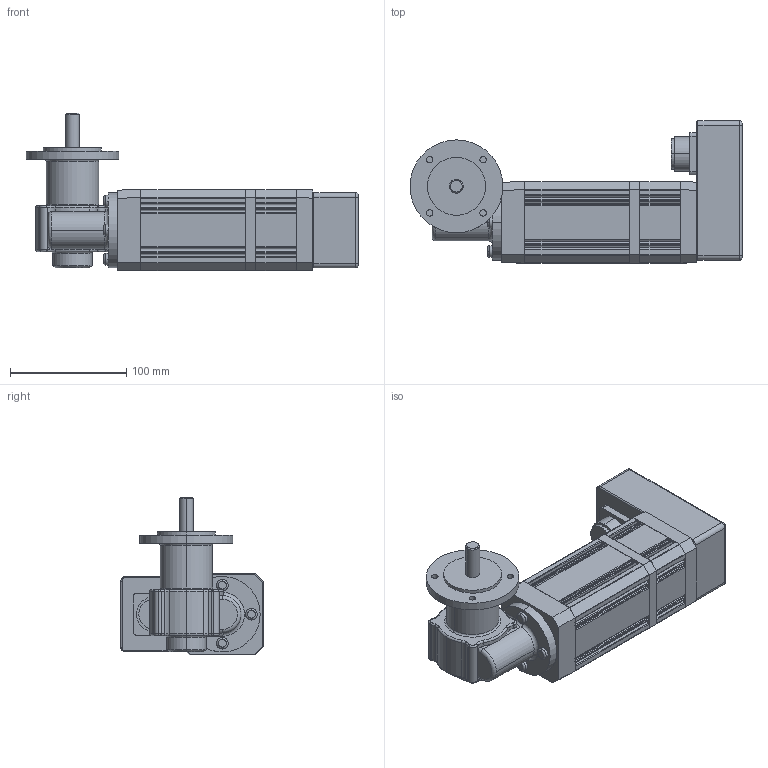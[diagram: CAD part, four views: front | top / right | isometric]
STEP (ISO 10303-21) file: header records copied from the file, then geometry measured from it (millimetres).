
FILE_DESCRIPTION(('OneSpaceDesigner STEP Export'),'2;1');
FILE_NAME('UECG303THL_GF129_F.stp','2008-06-25T10:24:48',(''),(''),'OneSpace Designer STEP processor (Jan. 2003) for AP214(CD)(Solid Model)','OneSpace Designer 12.01D 09-Jul-2004 (C) CoCreate Software GmbH','');
FILE_SCHEMA(('AUTOMOTIVE_DESIGN_CC2 {1 2 10303 214 -1 1 5 1}'));
Length unit declared in the file: millimetre
Products named in the file (2): UECG303THL_GF129_F
Assembly tree (1 placements, depth 2):
  UECG303THL_GF129_F
    UECG303THL_GF129_F
Bounding box: 286 x 122.6 x 136.1 mm (x, y, z)
Volume: 1406458.3 mm3; surface area: 127665.6 mm2
Topology: 1 solids, 1 shells, 474 faces, 1278 edges, 823 vertices
Faces by surface type: cylinder 217, plane 179, torus 74, cone 4
Entity records: 14768 total; most frequent: CARTESIAN_POINT 3293, ORIENTED_EDGE 2556, DIRECTION 2301, EDGE_CURVE 1278, VERTEX_POINT 823, AXIS2_PLACEMENT_3D 820, VECTOR 661, LINE 661
